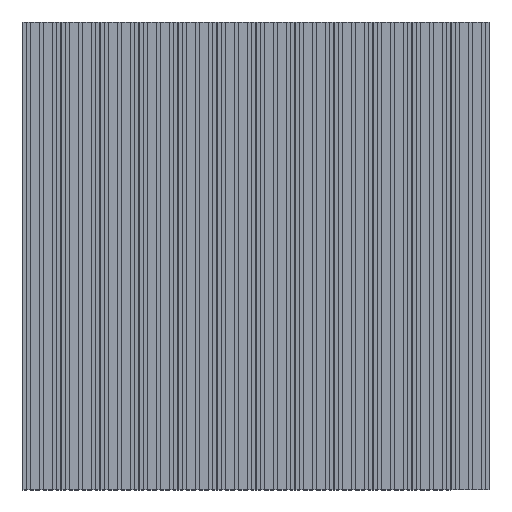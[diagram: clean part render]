
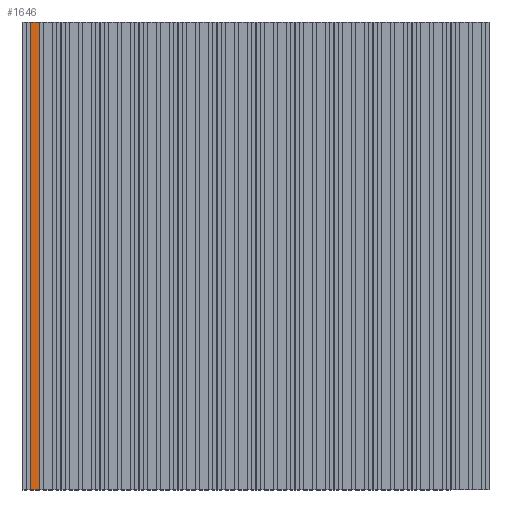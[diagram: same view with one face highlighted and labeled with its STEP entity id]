
A CAD part, top view. The second image highlights one B-rep face of the part: STEP entity #1646.
In plain terms, the highlighted planar face has unit normal (0, 0, 1).
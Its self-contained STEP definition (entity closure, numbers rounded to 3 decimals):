
#1646=ADVANCED_FACE('',(#1971),#1804,.F.);
#1804=PLANE('',#5294);
#1971=FACE_OUTER_BOUND('',#2149,.T.);
#2149=EDGE_LOOP('',(#2705,#2706,#2707,#2708));
#2705=ORIENTED_EDGE('',*,*,#4030,.T.);
#2706=ORIENTED_EDGE('',*,*,#4031,.F.);
#2707=ORIENTED_EDGE('',*,*,#4032,.F.);
#2708=ORIENTED_EDGE('',*,*,#4028,.T.);
#3549=VERTEX_POINT('',#7140);
#3550=VERTEX_POINT('',#7142);
#3551=VERTEX_POINT('',#7146);
#3552=VERTEX_POINT('',#7148);
#4028=EDGE_CURVE('',#3550,#3549,#4518,.T.);
#4030=EDGE_CURVE('',#3549,#3551,#4520,.T.);
#4031=EDGE_CURVE('',#3552,#3551,#4521,.T.);
#4032=EDGE_CURVE('',#3550,#3552,#4522,.T.);
#4518=LINE('',#7141,#4976);
#4520=LINE('',#7145,#4978);
#4521=LINE('',#7147,#4979);
#4522=LINE('',#7149,#4980);
#4976=VECTOR('',#6052,1.);
#4978=VECTOR('',#6056,1.);
#4979=VECTOR('',#6057,1.);
#4980=VECTOR('',#6058,1.);
#5294=AXIS2_PLACEMENT_3D('',#7150,#6059,#6060);
#6052=DIRECTION('',(0.,1.,0.));
#6056=DIRECTION('',(-1.,0.,0.));
#6057=DIRECTION('',(0.,1.,0.));
#6058=DIRECTION('',(-1.,0.,0.));
#6059=DIRECTION('',(0.,0.,-1.));
#6060=DIRECTION('',(-1.,0.,0.));
#7140=CARTESIAN_POINT('',(16.4,0.,10.));
#7141=CARTESIAN_POINT('',(16.4,-720.,10.));
#7142=CARTESIAN_POINT('',(16.4,-720.,10.));
#7145=CARTESIAN_POINT('',(16.4,0.,10.));
#7146=CARTESIAN_POINT('',(3.6,0.,10.));
#7147=CARTESIAN_POINT('',(3.6,-720.,10.));
#7148=CARTESIAN_POINT('',(3.6,-720.,10.));
#7149=CARTESIAN_POINT('',(16.4,-720.,10.));
#7150=CARTESIAN_POINT('',(16.4,-720.,10.));
